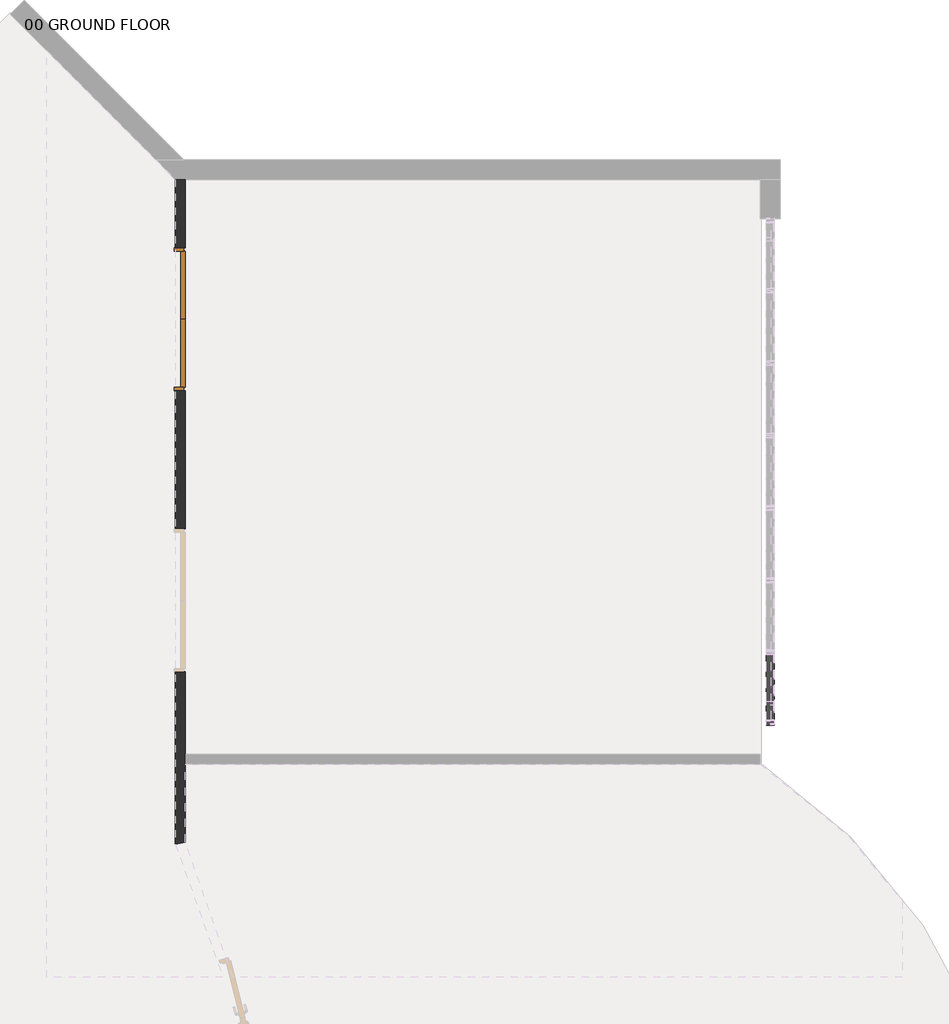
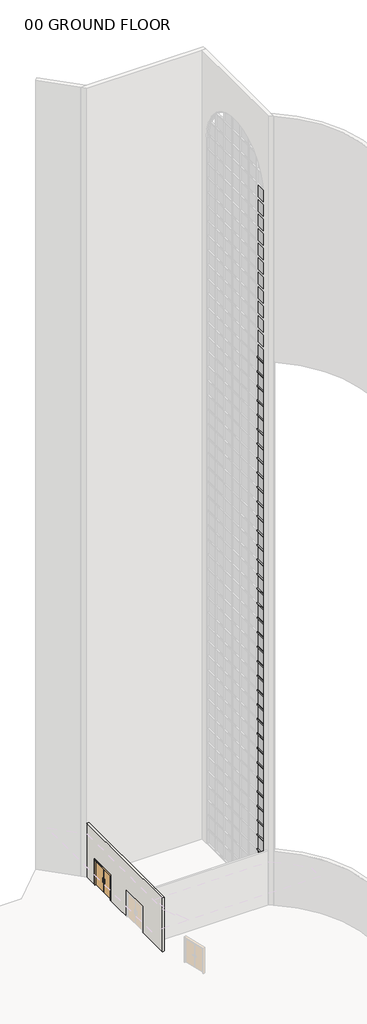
# One storey, part 24 of 33: 75 members, 49 plates, 1 door, 1 wall.
"""IFC4 building model written with IfcOpenShell, lengths in millimetres."""

from ifc_helpers import new_model, si_unit, origin, place, context, project, spatial, faceted_brep, transform, mapped, element, save
from components import door_b3a27a16, member_c70f70ef, member_75074519, system_panel_glazed_32064c29, system_panel_glazed_ab954ee1, system_panel_glazed_15c3798a

model = new_model("IFC4")

# Units and contexts
model_context = context("Model", 3, world=origin())
ifc_project = project(units=[si_unit("LENGTHUNIT", "METRE", prefix="MILLI")], contexts=[model_context])

# Site, building, storey
site = spatial("IfcSite", under=ifc_project)
building = spatial("IfcBuilding", under=site)
storey = spatial("IfcBuildingStorey", under=building, Name="00 GROUND FLOOR", Elevation=0.0)

# Door
placement = place(None, origin())
door_shape = door_b3a27a16(model_context)
element("IfcDoor", 1, ObjectType="Door-Passage-Double-Flush-Dbl_Acting : 84\" x 84\"", at=placement, inside=storey, context=model_context, shape_type="MappedRepresentation", body=[
    mapped(door_shape, transform((34956.2675515, 31499.175, 0.0), x_axis=(0.0, -1.0, 0.0), y_axis=(1.0, 0.0, 0.0), z_axis=(0.0, 0.0, 1.0))),
])

# Members
member_shape = member_c70f70ef(model_context)
element("IfcMember", 2, ObjectType="Rectangular Mullion : 2.5\" x 5\" rectangular", at=placement, inside=storey, context=model_context, shape_type="MappedRepresentation", body=[
    mapped(member_shape, transform((44184.4050515, 25212.675, 1219.2), x_axis=(0.0, 0.0, 1.0), y_axis=(-1.0, 0.0, 0.0), z_axis=(0.0, -1.0, 0.0))),
])
element("IfcMember", 3, ObjectType="Rectangular Mullion : 2.5\" x 5\" rectangular", at=placement, inside=storey, context=model_context, shape_type="MappedRepresentation", body=[
    mapped(member_shape, transform((44184.4050515, 25212.675, 2438.4), x_axis=(0.0, 0.0, 1.0), y_axis=(-1.0, 0.0, 0.0), z_axis=(0.0, -1.0, 0.0))),
])
element("IfcMember", 4, ObjectType="Rectangular Mullion : 2.5\" x 5\" rectangular", at=placement, inside=storey, context=model_context, shape_type="MappedRepresentation", body=[
    mapped(member_shape, transform((44184.4050515, 25212.675, 3657.6), x_axis=(0.0, 0.0, 1.0), y_axis=(-1.0, 0.0, 0.0), z_axis=(0.0, -1.0, 0.0))),
])
element("IfcMember", 5, ObjectType="Rectangular Mullion : 2.5\" x 5\" rectangular", at=placement, inside=storey, context=model_context, shape_type="MappedRepresentation", body=[
    mapped(member_shape, transform((44184.4050515, 25212.675, 4876.8), x_axis=(0.0, 0.0, 1.0), y_axis=(-1.0, 0.0, 0.0), z_axis=(0.0, -1.0, 0.0))),
])
element("IfcMember", 6, ObjectType="Rectangular Mullion : 2.5\" x 5\" rectangular", at=placement, inside=storey, context=model_context, shape_type="MappedRepresentation", body=[
    mapped(member_shape, transform((44184.4050515, 25212.675, 6096.0), x_axis=(0.0, 0.0, 1.0), y_axis=(-1.0, 0.0, 0.0), z_axis=(0.0, -1.0, 0.0))),
])
element("IfcMember", 7, ObjectType="Rectangular Mullion : 2.5\" x 5\" rectangular", at=placement, inside=storey, context=model_context, shape_type="MappedRepresentation", body=[
    mapped(member_shape, transform((44184.4050515, 25212.675, 7315.2), x_axis=(0.0, 0.0, 1.0), y_axis=(-1.0, 0.0, 0.0), z_axis=(0.0, -1.0, 0.0))),
])
element("IfcMember", 8, ObjectType="Rectangular Mullion : 2.5\" x 5\" rectangular", at=placement, inside=storey, context=model_context, shape_type="MappedRepresentation", body=[
    mapped(member_shape, transform((44184.4050515, 25212.675, 8534.4), x_axis=(0.0, 0.0, 1.0), y_axis=(-1.0, 0.0, 0.0), z_axis=(0.0, -1.0, 0.0))),
])
element("IfcMember", 9, ObjectType="Rectangular Mullion : 2.5\" x 5\" rectangular", at=placement, inside=storey, context=model_context, shape_type="MappedRepresentation", body=[
    mapped(member_shape, transform((44184.4050515, 25212.675, 9753.6), x_axis=(0.0, 0.0, 1.0), y_axis=(-1.0, 0.0, 0.0), z_axis=(0.0, -1.0, 0.0))),
])
element("IfcMember", 10, ObjectType="Rectangular Mullion : 2.5\" x 5\" rectangular", at=placement, inside=storey, context=model_context, shape_type="MappedRepresentation", body=[
    mapped(member_shape, transform((44184.4050515, 25212.675, 10972.8), x_axis=(0.0, 0.0, 1.0), y_axis=(-1.0, 0.0, 0.0), z_axis=(0.0, -1.0, 0.0))),
])
element("IfcMember", 11, ObjectType="Rectangular Mullion : 2.5\" x 5\" rectangular", at=placement, inside=storey, context=model_context, shape_type="MappedRepresentation", body=[
    mapped(member_shape, transform((44184.4050515, 25212.675, 12192.0), x_axis=(0.0, 0.0, 1.0), y_axis=(-1.0, 0.0, 0.0), z_axis=(0.0, -1.0, 0.0))),
])
element("IfcMember", 12, ObjectType="Rectangular Mullion : 2.5\" x 5\" rectangular", at=placement, inside=storey, context=model_context, shape_type="MappedRepresentation", body=[
    mapped(member_shape, transform((44184.4050515, 25212.675, 13411.2), x_axis=(0.0, 0.0, 1.0), y_axis=(-1.0, 0.0, 0.0), z_axis=(0.0, -1.0, 0.0))),
])
element("IfcMember", 13, ObjectType="Rectangular Mullion : 2.5\" x 5\" rectangular", at=placement, inside=storey, context=model_context, shape_type="MappedRepresentation", body=[
    mapped(member_shape, transform((44184.4050515, 25212.675, 14630.4), x_axis=(0.0, 0.0, 1.0), y_axis=(-1.0, 0.0, 0.0), z_axis=(0.0, -1.0, 0.0))),
])
element("IfcMember", 14, ObjectType="Rectangular Mullion : 2.5\" x 5\" rectangular", at=placement, inside=storey, context=model_context, shape_type="MappedRepresentation", body=[
    mapped(member_shape, transform((44184.4050515, 25212.675, 15849.6), x_axis=(0.0, 0.0, 1.0), y_axis=(-1.0, 0.0, 0.0), z_axis=(0.0, -1.0, 0.0))),
])
element("IfcMember", 15, ObjectType="Rectangular Mullion : 2.5\" x 5\" rectangular", at=placement, inside=storey, context=model_context, shape_type="MappedRepresentation", body=[
    mapped(member_shape, transform((44184.4050515, 25212.675, 17068.8), x_axis=(0.0, 0.0, 1.0), y_axis=(-1.0, 0.0, 0.0), z_axis=(0.0, -1.0, 0.0))),
])
element("IfcMember", 16, ObjectType="Rectangular Mullion : 2.5\" x 5\" rectangular", at=placement, inside=storey, context=model_context, shape_type="MappedRepresentation", body=[
    mapped(member_shape, transform((44184.4050515, 25212.675, 18288.0), x_axis=(0.0, 0.0, 1.0), y_axis=(-1.0, 0.0, 0.0), z_axis=(0.0, -1.0, 0.0))),
])
element("IfcMember", 17, ObjectType="Rectangular Mullion : 2.5\" x 5\" rectangular", at=placement, inside=storey, context=model_context, shape_type="MappedRepresentation", body=[
    mapped(member_shape, transform((44184.4050515, 25212.675, 19507.2), x_axis=(0.0, 0.0, 1.0), y_axis=(-1.0, 0.0, 0.0), z_axis=(0.0, -1.0, 0.0))),
])
element("IfcMember", 18, ObjectType="Rectangular Mullion : 2.5\" x 5\" rectangular", at=placement, inside=storey, context=model_context, shape_type="MappedRepresentation", body=[
    mapped(member_shape, transform((44184.4050515, 25212.675, 20726.4), x_axis=(0.0, 0.0, 1.0), y_axis=(-1.0, 0.0, 0.0), z_axis=(0.0, -1.0, 0.0))),
])
element("IfcMember", 19, ObjectType="Rectangular Mullion : 2.5\" x 5\" rectangular", at=placement, inside=storey, context=model_context, shape_type="MappedRepresentation", body=[
    mapped(member_shape, transform((44184.4050515, 25212.675, 21945.6), x_axis=(0.0, 0.0, 1.0), y_axis=(-1.0, 0.0, 0.0), z_axis=(0.0, -1.0, 0.0))),
])
element("IfcMember", 20, ObjectType="Rectangular Mullion : 2.5\" x 5\" rectangular", at=placement, inside=storey, context=model_context, shape_type="MappedRepresentation", body=[
    mapped(member_shape, transform((44184.4050515, 25212.675, 23164.8), x_axis=(0.0, 0.0, 1.0), y_axis=(-1.0, 0.0, 0.0), z_axis=(0.0, -1.0, 0.0))),
])
element("IfcMember", 21, ObjectType="Rectangular Mullion : 2.5\" x 5\" rectangular", at=placement, inside=storey, context=model_context, shape_type="MappedRepresentation", body=[
    mapped(member_shape, transform((44184.4050515, 25212.675, 24384.0), x_axis=(0.0, 0.0, 1.0), y_axis=(-1.0, 0.0, 0.0), z_axis=(0.0, -1.0, 0.0))),
])
element("IfcMember", 22, ObjectType="Rectangular Mullion : 2.5\" x 5\" rectangular", at=placement, inside=storey, context=model_context, shape_type="MappedRepresentation", body=[
    mapped(member_shape, transform((44184.4050515, 25212.675, 25603.2), x_axis=(0.0, 0.0, 1.0), y_axis=(-1.0, 0.0, 0.0), z_axis=(0.0, -1.0, 0.0))),
])
element("IfcMember", 23, ObjectType="Rectangular Mullion : 2.5\" x 5\" rectangular", at=placement, inside=storey, context=model_context, shape_type="MappedRepresentation", body=[
    mapped(member_shape, transform((44184.4050515, 25212.675, 26822.4), x_axis=(0.0, 0.0, 1.0), y_axis=(-1.0, 0.0, 0.0), z_axis=(0.0, -1.0, 0.0))),
])
element("IfcMember", 24, ObjectType="Rectangular Mullion : 2.5\" x 5\" rectangular", at=placement, inside=storey, context=model_context, shape_type="MappedRepresentation", body=[
    mapped(member_shape, transform((44184.4050515, 25212.675, 28041.6), x_axis=(0.0, 0.0, 1.0), y_axis=(-1.0, 0.0, 0.0), z_axis=(0.0, -1.0, 0.0))),
])
element("IfcMember", 25, ObjectType="Rectangular Mullion : 2.5\" x 5\" rectangular", at=placement, inside=storey, context=model_context, shape_type="MappedRepresentation", body=[
    mapped(member_shape, transform((44184.4050515, 25212.675, 29260.8), x_axis=(0.0, 0.0, 1.0), y_axis=(-1.0, 0.0, 0.0), z_axis=(0.0, -1.0, 0.0))),
])
element("IfcMember", 26, ObjectType="Rectangular Mullion : 2.5\" x 5\" rectangular", at=placement, inside=storey, context=model_context, shape_type="MappedRepresentation", body=[
    mapped(member_shape, transform((44184.4050515, 25212.675, 30480.0), x_axis=(0.0, 0.0, 1.0), y_axis=(-1.0, 0.0, 0.0), z_axis=(0.0, -1.0, 0.0))),
])
element("IfcMember", 27, ObjectType="Rectangular Mullion : 2.5\" x 5\" rectangular", at=placement, inside=storey, context=model_context, shape_type="MappedRepresentation", body=[
    mapped(member_shape, transform((44184.4050515, 25212.675, 31699.2), x_axis=(0.0, 0.0, 1.0), y_axis=(-1.0, 0.0, 0.0), z_axis=(0.0, -1.0, 0.0))),
])
element("IfcMember", 28, ObjectType="Rectangular Mullion : 2.5\" x 5\" rectangular", at=placement, inside=storey, context=model_context, shape_type="MappedRepresentation", body=[
    mapped(member_shape, transform((44184.4050515, 25212.675, 32918.4), x_axis=(0.0, 0.0, 1.0), y_axis=(-1.0, 0.0, 0.0), z_axis=(0.0, -1.0, 0.0))),
])
element("IfcMember", 29, ObjectType="Rectangular Mullion : 2.5\" x 5\" rectangular", at=placement, inside=storey, context=model_context, shape_type="MappedRepresentation", body=[
    mapped(member_shape, transform((44184.4050515, 25212.675, 34137.6), x_axis=(0.0, 0.0, 1.0), y_axis=(-1.0, 0.0, 0.0), z_axis=(0.0, -1.0, 0.0))),
])
element("IfcMember", 30, ObjectType="Rectangular Mullion : 2.5\" x 5\" rectangular", at=placement, inside=storey, context=model_context, shape_type="MappedRepresentation", body=[
    mapped(member_shape, transform((44184.4050515, 25212.675, 35356.8), x_axis=(0.0, 0.0, 1.0), y_axis=(-1.0, 0.0, 0.0), z_axis=(0.0, -1.0, 0.0))),
])
element("IfcMember", 31, ObjectType="Rectangular Mullion : 2.5\" x 5\" rectangular", at=placement, inside=storey, context=model_context, shape_type="MappedRepresentation", body=[
    mapped(member_shape, transform((44184.4050515, 25212.675, 36576.0), x_axis=(0.0, 0.0, 1.0), y_axis=(-1.0, 0.0, 0.0), z_axis=(0.0, -1.0, 0.0))),
])
element("IfcMember", 32, ObjectType="Rectangular Mullion : 2.5\" x 5\" rectangular", at=placement, inside=storey, context=model_context, shape_type="MappedRepresentation", body=[
    mapped(member_shape, transform((44184.4050515, 25212.675, 37795.2), x_axis=(0.0, 0.0, 1.0), y_axis=(-1.0, 0.0, 0.0), z_axis=(0.0, -1.0, 0.0))),
])
element("IfcMember", 33, ObjectType="Rectangular Mullion : 2.5\" x 5\" rectangular", at=placement, inside=storey, context=model_context, shape_type="MappedRepresentation", body=[
    mapped(member_shape, transform((44184.4050515, 25212.675, 39014.4), x_axis=(0.0, 0.0, 1.0), y_axis=(-1.0, 0.0, 0.0), z_axis=(0.0, -1.0, 0.0))),
])
element("IfcMember", 34, ObjectType="Rectangular Mullion : 2.5\" x 5\" rectangular", at=placement, inside=storey, context=model_context, shape_type="MappedRepresentation", body=[
    mapped(member_shape, transform((44184.4050515, 25212.675, 40233.6), x_axis=(0.0, 0.0, 1.0), y_axis=(-1.0, 0.0, 0.0), z_axis=(0.0, -1.0, 0.0))),
])
element("IfcMember", 35, ObjectType="Rectangular Mullion : 2.5\" x 5\" rectangular", at=placement, inside=storey, context=model_context, shape_type="MappedRepresentation", body=[
    mapped(member_shape, transform((44184.4050515, 25212.675, 41452.8), x_axis=(0.0, 0.0, 1.0), y_axis=(-1.0, 0.0, 0.0), z_axis=(0.0, -1.0, 0.0))),
])
element("IfcMember", 36, ObjectType="Rectangular Mullion : 2.5\" x 5\" rectangular", at=placement, inside=storey, context=model_context, shape_type="MappedRepresentation", body=[
    mapped(member_shape, transform((44184.4050515, 25212.675, 42672.0), x_axis=(0.0, 0.0, 1.0), y_axis=(-1.0, 0.0, 0.0), z_axis=(0.0, -1.0, 0.0))),
])
element("IfcMember", 37, ObjectType="Rectangular Mullion : 2.5\" x 5\" rectangular", at=placement, inside=storey, context=model_context, shape_type="MappedRepresentation", body=[
    mapped(member_shape, transform((44184.4050515, 25212.675, 43891.2), x_axis=(0.0, 0.0, 1.0), y_axis=(-1.0, 0.0, 0.0), z_axis=(0.0, -1.0, 0.0))),
])
element("IfcMember", 38, ObjectType="Rectangular Mullion : 2.5\" x 5\" rectangular", at=placement, inside=storey, context=model_context, shape_type="MappedRepresentation", body=[
    mapped(member_shape, transform((44184.4050515, 25212.675, 45110.4), x_axis=(0.0, 0.0, 1.0), y_axis=(-1.0, 0.0, 0.0), z_axis=(0.0, -1.0, 0.0))),
])
member_2_shape = member_75074519(model_context)
element("IfcMember", 39, ObjectType="Rectangular Mullion : 2.5\" x 5\" rectangular", at=placement, inside=storey, context=model_context, shape_type="MappedRepresentation", body=[
    mapped(member_2_shape, transform((44184.4050515, 25149.175, 0.0), x_axis=(0.0, -1.0, 0.0), y_axis=(-1.0, 0.0, 0.0), z_axis=(0.0, 0.0, -1.0))),
])
element("IfcMember", 40, ObjectType="Rectangular Mullion : 2.5\" x 5\" rectangular", at=placement, inside=storey, context=model_context, shape_type="MappedRepresentation", body=[
    mapped(member_2_shape, transform((44184.4050515, 25149.175, 1219.2), x_axis=(0.0, -1.0, 0.0), y_axis=(-1.0, 0.0, 0.0), z_axis=(0.0, 0.0, -1.0))),
])
element("IfcMember", 41, ObjectType="Rectangular Mullion : 2.5\" x 5\" rectangular", at=placement, inside=storey, context=model_context, shape_type="MappedRepresentation", body=[
    mapped(member_2_shape, transform((44184.4050515, 25149.175, 2438.4), x_axis=(0.0, -1.0, 0.0), y_axis=(-1.0, 0.0, 0.0), z_axis=(0.0, 0.0, -1.0))),
])
element("IfcMember", 42, ObjectType="Rectangular Mullion : 2.5\" x 5\" rectangular", at=placement, inside=storey, context=model_context, shape_type="MappedRepresentation", body=[
    mapped(member_2_shape, transform((44184.4050515, 25149.175, 3657.6), x_axis=(0.0, -1.0, 0.0), y_axis=(-1.0, 0.0, 0.0), z_axis=(0.0, 0.0, -1.0))),
])
element("IfcMember", 43, ObjectType="Rectangular Mullion : 2.5\" x 5\" rectangular", at=placement, inside=storey, context=model_context, shape_type="MappedRepresentation", body=[
    mapped(member_2_shape, transform((44184.4050515, 25149.175, 4876.8), x_axis=(0.0, -1.0, 0.0), y_axis=(-1.0, 0.0, 0.0), z_axis=(0.0, 0.0, -1.0))),
])
element("IfcMember", 44, ObjectType="Rectangular Mullion : 2.5\" x 5\" rectangular", at=placement, inside=storey, context=model_context, shape_type="MappedRepresentation", body=[
    mapped(member_2_shape, transform((44184.4050515, 25149.175, 6096.0), x_axis=(0.0, -1.0, 0.0), y_axis=(-1.0, 0.0, 0.0), z_axis=(0.0, 0.0, -1.0))),
])
element("IfcMember", 45, ObjectType="Rectangular Mullion : 2.5\" x 5\" rectangular", at=placement, inside=storey, context=model_context, shape_type="MappedRepresentation", body=[
    mapped(member_2_shape, transform((44184.4050515, 25149.175, 7315.2), x_axis=(0.0, -1.0, 0.0), y_axis=(-1.0, 0.0, 0.0), z_axis=(0.0, 0.0, -1.0))),
])
element("IfcMember", 46, ObjectType="Rectangular Mullion : 2.5\" x 5\" rectangular", at=placement, inside=storey, context=model_context, shape_type="MappedRepresentation", body=[
    mapped(member_2_shape, transform((44184.4050515, 25149.175, 8534.4), x_axis=(0.0, -1.0, 0.0), y_axis=(-1.0, 0.0, 0.0), z_axis=(0.0, 0.0, -1.0))),
])
element("IfcMember", 47, ObjectType="Rectangular Mullion : 2.5\" x 5\" rectangular", at=placement, inside=storey, context=model_context, shape_type="MappedRepresentation", body=[
    mapped(member_2_shape, transform((44184.4050515, 25149.175, 9753.6), x_axis=(0.0, -1.0, 0.0), y_axis=(-1.0, 0.0, 0.0), z_axis=(0.0, 0.0, -1.0))),
])
element("IfcMember", 48, ObjectType="Rectangular Mullion : 2.5\" x 5\" rectangular", at=placement, inside=storey, context=model_context, shape_type="MappedRepresentation", body=[
    mapped(member_2_shape, transform((44184.4050515, 25149.175, 10972.8), x_axis=(0.0, -1.0, 0.0), y_axis=(-1.0, 0.0, 0.0), z_axis=(0.0, 0.0, -1.0))),
])
element("IfcMember", 49, ObjectType="Rectangular Mullion : 2.5\" x 5\" rectangular", at=placement, inside=storey, context=model_context, shape_type="MappedRepresentation", body=[
    mapped(member_2_shape, transform((44184.4050515, 25149.175, 12192.0), x_axis=(0.0, -1.0, 0.0), y_axis=(-1.0, 0.0, 0.0), z_axis=(0.0, 0.0, -1.0))),
])
element("IfcMember", 50, ObjectType="Rectangular Mullion : 2.5\" x 5\" rectangular", at=placement, inside=storey, context=model_context, shape_type="MappedRepresentation", body=[
    mapped(member_2_shape, transform((44184.4050515, 25149.175, 13411.2), x_axis=(0.0, -1.0, 0.0), y_axis=(-1.0, 0.0, 0.0), z_axis=(0.0, 0.0, -1.0))),
])
element("IfcMember", 51, ObjectType="Rectangular Mullion : 2.5\" x 5\" rectangular", at=placement, inside=storey, context=model_context, shape_type="MappedRepresentation", body=[
    mapped(member_2_shape, transform((44184.4050515, 25149.175, 14630.4), x_axis=(0.0, -1.0, 0.0), y_axis=(-1.0, 0.0, 0.0), z_axis=(0.0, 0.0, -1.0))),
])
element("IfcMember", 52, ObjectType="Rectangular Mullion : 2.5\" x 5\" rectangular", at=placement, inside=storey, context=model_context, shape_type="MappedRepresentation", body=[
    mapped(member_2_shape, transform((44184.4050515, 25149.175, 15849.6), x_axis=(0.0, -1.0, 0.0), y_axis=(-1.0, 0.0, 0.0), z_axis=(0.0, 0.0, -1.0))),
])
element("IfcMember", 53, ObjectType="Rectangular Mullion : 2.5\" x 5\" rectangular", at=placement, inside=storey, context=model_context, shape_type="MappedRepresentation", body=[
    mapped(member_2_shape, transform((44184.4050515, 25149.175, 17068.8), x_axis=(0.0, -1.0, 0.0), y_axis=(-1.0, 0.0, 0.0), z_axis=(0.0, 0.0, -1.0))),
])
element("IfcMember", 54, ObjectType="Rectangular Mullion : 2.5\" x 5\" rectangular", at=placement, inside=storey, context=model_context, shape_type="MappedRepresentation", body=[
    mapped(member_2_shape, transform((44184.4050515, 25149.175, 18288.0), x_axis=(0.0, -1.0, 0.0), y_axis=(-1.0, 0.0, 0.0), z_axis=(0.0, 0.0, -1.0))),
])
element("IfcMember", 55, ObjectType="Rectangular Mullion : 2.5\" x 5\" rectangular", at=placement, inside=storey, context=model_context, shape_type="MappedRepresentation", body=[
    mapped(member_2_shape, transform((44184.4050515, 25149.175, 19507.2), x_axis=(0.0, -1.0, 0.0), y_axis=(-1.0, 0.0, 0.0), z_axis=(0.0, 0.0, -1.0))),
])
element("IfcMember", 56, ObjectType="Rectangular Mullion : 2.5\" x 5\" rectangular", at=placement, inside=storey, context=model_context, shape_type="MappedRepresentation", body=[
    mapped(member_2_shape, transform((44184.4050515, 25149.175, 20726.4), x_axis=(0.0, -1.0, 0.0), y_axis=(-1.0, 0.0, 0.0), z_axis=(0.0, 0.0, -1.0))),
])
element("IfcMember", 57, ObjectType="Rectangular Mullion : 2.5\" x 5\" rectangular", at=placement, inside=storey, context=model_context, shape_type="MappedRepresentation", body=[
    mapped(member_2_shape, transform((44184.4050515, 25149.175, 21945.6), x_axis=(0.0, -1.0, 0.0), y_axis=(-1.0, 0.0, 0.0), z_axis=(0.0, 0.0, -1.0))),
])
element("IfcMember", 58, ObjectType="Rectangular Mullion : 2.5\" x 5\" rectangular", at=placement, inside=storey, context=model_context, shape_type="MappedRepresentation", body=[
    mapped(member_2_shape, transform((44184.4050515, 25149.175, 23164.8), x_axis=(0.0, -1.0, 0.0), y_axis=(-1.0, 0.0, 0.0), z_axis=(0.0, 0.0, -1.0))),
])
element("IfcMember", 59, ObjectType="Rectangular Mullion : 2.5\" x 5\" rectangular", at=placement, inside=storey, context=model_context, shape_type="MappedRepresentation", body=[
    mapped(member_2_shape, transform((44184.4050515, 25149.175, 24384.0), x_axis=(0.0, -1.0, 0.0), y_axis=(-1.0, 0.0, 0.0), z_axis=(0.0, 0.0, -1.0))),
])
element("IfcMember", 60, ObjectType="Rectangular Mullion : 2.5\" x 5\" rectangular", at=placement, inside=storey, context=model_context, shape_type="MappedRepresentation", body=[
    mapped(member_2_shape, transform((44184.4050515, 25149.175, 25603.2), x_axis=(0.0, -1.0, 0.0), y_axis=(-1.0, 0.0, 0.0), z_axis=(0.0, 0.0, -1.0))),
])
element("IfcMember", 61, ObjectType="Rectangular Mullion : 2.5\" x 5\" rectangular", at=placement, inside=storey, context=model_context, shape_type="MappedRepresentation", body=[
    mapped(member_2_shape, transform((44184.4050515, 25149.175, 26822.4), x_axis=(0.0, -1.0, 0.0), y_axis=(-1.0, 0.0, 0.0), z_axis=(0.0, 0.0, -1.0))),
])
element("IfcMember", 62, ObjectType="Rectangular Mullion : 2.5\" x 5\" rectangular", at=placement, inside=storey, context=model_context, shape_type="MappedRepresentation", body=[
    mapped(member_2_shape, transform((44184.4050515, 25149.175, 28041.6), x_axis=(0.0, -1.0, 0.0), y_axis=(-1.0, 0.0, 0.0), z_axis=(0.0, 0.0, -1.0))),
])
element("IfcMember", 63, ObjectType="Rectangular Mullion : 2.5\" x 5\" rectangular", at=placement, inside=storey, context=model_context, shape_type="MappedRepresentation", body=[
    mapped(member_2_shape, transform((44184.4050515, 25149.175, 29260.8), x_axis=(0.0, -1.0, 0.0), y_axis=(-1.0, 0.0, 0.0), z_axis=(0.0, 0.0, -1.0))),
])
element("IfcMember", 64, ObjectType="Rectangular Mullion : 2.5\" x 5\" rectangular", at=placement, inside=storey, context=model_context, shape_type="MappedRepresentation", body=[
    mapped(member_2_shape, transform((44184.4050515, 25149.175, 30480.0), x_axis=(0.0, -1.0, 0.0), y_axis=(-1.0, 0.0, 0.0), z_axis=(0.0, 0.0, -1.0))),
])
element("IfcMember", 65, ObjectType="Rectangular Mullion : 2.5\" x 5\" rectangular", at=placement, inside=storey, context=model_context, shape_type="MappedRepresentation", body=[
    mapped(member_2_shape, transform((44184.4050515, 25149.175, 31699.2), x_axis=(0.0, -1.0, 0.0), y_axis=(-1.0, 0.0, 0.0), z_axis=(0.0, 0.0, -1.0))),
])
element("IfcMember", 66, ObjectType="Rectangular Mullion : 2.5\" x 5\" rectangular", at=placement, inside=storey, context=model_context, shape_type="MappedRepresentation", body=[
    mapped(member_2_shape, transform((44184.4050515, 25149.175, 32918.4), x_axis=(0.0, -1.0, 0.0), y_axis=(-1.0, 0.0, 0.0), z_axis=(0.0, 0.0, -1.0))),
])
element("IfcMember", 67, ObjectType="Rectangular Mullion : 2.5\" x 5\" rectangular", at=placement, inside=storey, context=model_context, shape_type="MappedRepresentation", body=[
    mapped(member_2_shape, transform((44184.4050515, 25149.175, 34137.6), x_axis=(0.0, -1.0, 0.0), y_axis=(-1.0, 0.0, 0.0), z_axis=(0.0, 0.0, -1.0))),
])
element("IfcMember", 68, ObjectType="Rectangular Mullion : 2.5\" x 5\" rectangular", at=placement, inside=storey, context=model_context, shape_type="MappedRepresentation", body=[
    mapped(member_2_shape, transform((44184.4050515, 25149.175, 35356.8), x_axis=(0.0, -1.0, 0.0), y_axis=(-1.0, 0.0, 0.0), z_axis=(0.0, 0.0, -1.0))),
])
element("IfcMember", 69, ObjectType="Rectangular Mullion : 2.5\" x 5\" rectangular", at=placement, inside=storey, context=model_context, shape_type="MappedRepresentation", body=[
    mapped(member_2_shape, transform((44184.4050515, 25149.175, 36576.0), x_axis=(0.0, -1.0, 0.0), y_axis=(-1.0, 0.0, 0.0), z_axis=(0.0, 0.0, -1.0))),
])
element("IfcMember", 70, ObjectType="Rectangular Mullion : 2.5\" x 5\" rectangular", at=placement, inside=storey, context=model_context, shape_type="MappedRepresentation", body=[
    mapped(member_2_shape, transform((44184.4050515, 25149.175, 37795.2), x_axis=(0.0, -1.0, 0.0), y_axis=(-1.0, 0.0, 0.0), z_axis=(0.0, 0.0, -1.0))),
])
element("IfcMember", 71, ObjectType="Rectangular Mullion : 2.5\" x 5\" rectangular", at=placement, inside=storey, context=model_context, shape_type="MappedRepresentation", body=[
    mapped(member_2_shape, transform((44184.4050515, 25149.175, 39014.4), x_axis=(0.0, -1.0, 0.0), y_axis=(-1.0, 0.0, 0.0), z_axis=(0.0, 0.0, -1.0))),
])
element("IfcMember", 72, ObjectType="Rectangular Mullion : 2.5\" x 5\" rectangular", at=placement, inside=storey, context=model_context, shape_type="MappedRepresentation", body=[
    mapped(member_2_shape, transform((44184.4050515, 25149.175, 40233.6), x_axis=(0.0, -1.0, 0.0), y_axis=(-1.0, 0.0, 0.0), z_axis=(0.0, 0.0, -1.0))),
])
element("IfcMember", 73, ObjectType="Rectangular Mullion : 2.5\" x 5\" rectangular", at=placement, inside=storey, context=model_context, shape_type="MappedRepresentation", body=[
    mapped(member_2_shape, transform((44184.4050515, 25149.175, 41452.8), x_axis=(0.0, -1.0, 0.0), y_axis=(-1.0, 0.0, 0.0), z_axis=(0.0, 0.0, -1.0))),
])
element("IfcMember", 74, ObjectType="Rectangular Mullion : 2.5\" x 5\" rectangular", at=placement, inside=storey, context=model_context, shape_type="MappedRepresentation", body=[
    mapped(member_2_shape, transform((44184.4050515, 25149.175, 42672.0), x_axis=(0.0, -1.0, 0.0), y_axis=(-1.0, 0.0, 0.0), z_axis=(0.0, 0.0, -1.0))),
])
element("IfcMember", 75, ObjectType="Rectangular Mullion : 2.5\" x 5\" rectangular", at=placement, inside=storey, context=model_context, shape_type="MappedRepresentation", body=[
    mapped(member_2_shape, transform((44184.4050515, 25149.175, 43891.2), x_axis=(0.0, -1.0, 0.0), y_axis=(-1.0, 0.0, 0.0), z_axis=(0.0, 0.0, -1.0))),
])
element("IfcMember", 76, ObjectType="Rectangular Mullion : 2.5\" x 5\" rectangular", at=placement, inside=storey, context=model_context, shape_type="MappedRepresentation", body=[
    mapped(member_2_shape, transform((44184.4050515, 25149.175, 45110.4), x_axis=(0.0, -1.0, 0.0), y_axis=(-1.0, 0.0, 0.0), z_axis=(0.0, 0.0, -1.0))),
])

# Plates
system_panel_glazed_shape = system_panel_glazed_32064c29(model_context)
element("IfcPlate", 77, ObjectType="System Panel : Glazed", at=placement, inside=storey, context=model_context, shape_type="MappedRepresentation", body=[
    mapped(system_panel_glazed_shape, transform((44184.4050515, 25731.107143, 63.5), x_axis=(0.0, -1.0, 0.0), y_axis=(1.0, 0.0, 0.0), z_axis=(0.0, 0.0, 1.0))),
])
system_panel_glazed_2_shape = system_panel_glazed_ab954ee1(model_context)
element("IfcPlate", 78, ObjectType="System Panel : Glazed", at=placement, inside=storey, context=model_context, shape_type="MappedRepresentation", body=[
    mapped(system_panel_glazed_2_shape, transform((44184.4050515, 25731.107143, 1250.95), x_axis=(0.0, -1.0, 0.0), y_axis=(1.0, 0.0, 0.0), z_axis=(0.0, 0.0, 1.0))),
])
element("IfcPlate", 79, ObjectType="System Panel : Glazed", at=placement, inside=storey, context=model_context, shape_type="MappedRepresentation", body=[
    mapped(system_panel_glazed_2_shape, transform((44184.4050515, 25731.107143, 2470.15), x_axis=(0.0, -1.0, 0.0), y_axis=(1.0, 0.0, 0.0), z_axis=(0.0, 0.0, 1.0))),
])
element("IfcPlate", 80, ObjectType="System Panel : Glazed", at=placement, inside=storey, context=model_context, shape_type="MappedRepresentation", body=[
    mapped(system_panel_glazed_2_shape, transform((44184.4050515, 25731.107143, 3689.35), x_axis=(0.0, -1.0, 0.0), y_axis=(1.0, 0.0, 0.0), z_axis=(0.0, 0.0, 1.0))),
])
element("IfcPlate", 81, ObjectType="System Panel : Glazed", at=placement, inside=storey, context=model_context, shape_type="MappedRepresentation", body=[
    mapped(system_panel_glazed_2_shape, transform((44184.4050515, 25731.107143, 4908.55), x_axis=(0.0, -1.0, 0.0), y_axis=(1.0, 0.0, 0.0), z_axis=(0.0, 0.0, 1.0))),
])
element("IfcPlate", 82, ObjectType="System Panel : Glazed", at=placement, inside=storey, context=model_context, shape_type="MappedRepresentation", body=[
    mapped(system_panel_glazed_2_shape, transform((44184.4050515, 25731.107143, 6127.75), x_axis=(0.0, -1.0, 0.0), y_axis=(1.0, 0.0, 0.0), z_axis=(0.0, 0.0, 1.0))),
])
element("IfcPlate", 83, ObjectType="System Panel : Glazed", at=placement, inside=storey, context=model_context, shape_type="MappedRepresentation", body=[
    mapped(system_panel_glazed_2_shape, transform((44184.4050515, 25731.107143, 7346.95), x_axis=(0.0, -1.0, 0.0), y_axis=(1.0, 0.0, 0.0), z_axis=(0.0, 0.0, 1.0))),
])
element("IfcPlate", 84, ObjectType="System Panel : Glazed", at=placement, inside=storey, context=model_context, shape_type="MappedRepresentation", body=[
    mapped(system_panel_glazed_2_shape, transform((44184.4050515, 25731.107143, 8566.15), x_axis=(0.0, -1.0, 0.0), y_axis=(1.0, 0.0, 0.0), z_axis=(0.0, 0.0, 1.0))),
])
element("IfcPlate", 85, ObjectType="System Panel : Glazed", at=placement, inside=storey, context=model_context, shape_type="MappedRepresentation", body=[
    mapped(system_panel_glazed_2_shape, transform((44184.4050515, 25731.107143, 9785.35), x_axis=(0.0, -1.0, 0.0), y_axis=(1.0, 0.0, 0.0), z_axis=(0.0, 0.0, 1.0))),
])
element("IfcPlate", 86, ObjectType="System Panel : Glazed", at=placement, inside=storey, context=model_context, shape_type="MappedRepresentation", body=[
    mapped(system_panel_glazed_2_shape, transform((44184.4050515, 25731.107143, 11004.55), x_axis=(0.0, -1.0, 0.0), y_axis=(1.0, 0.0, 0.0), z_axis=(0.0, 0.0, 1.0))),
])
element("IfcPlate", 87, ObjectType="System Panel : Glazed", at=placement, inside=storey, context=model_context, shape_type="MappedRepresentation", body=[
    mapped(system_panel_glazed_2_shape, transform((44184.4050515, 25731.107143, 12223.75), x_axis=(0.0, -1.0, 0.0), y_axis=(1.0, 0.0, 0.0), z_axis=(0.0, 0.0, 1.0))),
])
element("IfcPlate", 88, ObjectType="System Panel : Glazed", at=placement, inside=storey, context=model_context, shape_type="MappedRepresentation", body=[
    mapped(system_panel_glazed_2_shape, transform((44184.4050515, 25731.107143, 13442.95), x_axis=(0.0, -1.0, 0.0), y_axis=(1.0, 0.0, 0.0), z_axis=(0.0, 0.0, 1.0))),
])
element("IfcPlate", 89, ObjectType="System Panel : Glazed", at=placement, inside=storey, context=model_context, shape_type="MappedRepresentation", body=[
    mapped(system_panel_glazed_2_shape, transform((44184.4050515, 25731.107143, 14662.15), x_axis=(0.0, -1.0, 0.0), y_axis=(1.0, 0.0, 0.0), z_axis=(0.0, 0.0, 1.0))),
])
element("IfcPlate", 90, ObjectType="System Panel : Glazed", at=placement, inside=storey, context=model_context, shape_type="MappedRepresentation", body=[
    mapped(system_panel_glazed_2_shape, transform((44184.4050515, 25731.107143, 15881.35), x_axis=(0.0, -1.0, 0.0), y_axis=(1.0, 0.0, 0.0), z_axis=(0.0, 0.0, 1.0))),
])
element("IfcPlate", 91, ObjectType="System Panel : Glazed", at=placement, inside=storey, context=model_context, shape_type="MappedRepresentation", body=[
    mapped(system_panel_glazed_2_shape, transform((44184.4050515, 25731.107143, 17100.55), x_axis=(0.0, -1.0, 0.0), y_axis=(1.0, 0.0, 0.0), z_axis=(0.0, 0.0, 1.0))),
])
element("IfcPlate", 92, ObjectType="System Panel : Glazed", at=placement, inside=storey, context=model_context, shape_type="MappedRepresentation", body=[
    mapped(system_panel_glazed_2_shape, transform((44184.4050515, 25731.107143, 18319.75), x_axis=(0.0, -1.0, 0.0), y_axis=(1.0, 0.0, 0.0), z_axis=(0.0, 0.0, 1.0))),
])
element("IfcPlate", 93, ObjectType="System Panel : Glazed", at=placement, inside=storey, context=model_context, shape_type="MappedRepresentation", body=[
    mapped(system_panel_glazed_2_shape, transform((44184.4050515, 25731.107143, 19538.95), x_axis=(0.0, -1.0, 0.0), y_axis=(1.0, 0.0, 0.0), z_axis=(0.0, 0.0, 1.0))),
])
element("IfcPlate", 94, ObjectType="System Panel : Glazed", at=placement, inside=storey, context=model_context, shape_type="MappedRepresentation", body=[
    mapped(system_panel_glazed_2_shape, transform((44184.4050515, 25731.107143, 20758.15), x_axis=(0.0, -1.0, 0.0), y_axis=(1.0, 0.0, 0.0), z_axis=(0.0, 0.0, 1.0))),
])
element("IfcPlate", 95, ObjectType="System Panel : Glazed", at=placement, inside=storey, context=model_context, shape_type="MappedRepresentation", body=[
    mapped(system_panel_glazed_2_shape, transform((44184.4050515, 25731.107143, 21977.35), x_axis=(0.0, -1.0, 0.0), y_axis=(1.0, 0.0, 0.0), z_axis=(0.0, 0.0, 1.0))),
])
element("IfcPlate", 96, ObjectType="System Panel : Glazed", at=placement, inside=storey, context=model_context, shape_type="MappedRepresentation", body=[
    mapped(system_panel_glazed_2_shape, transform((44184.4050515, 25731.107143, 23196.55), x_axis=(0.0, -1.0, 0.0), y_axis=(1.0, 0.0, 0.0), z_axis=(0.0, 0.0, 1.0))),
])
element("IfcPlate", 97, ObjectType="System Panel : Glazed", at=placement, inside=storey, context=model_context, shape_type="MappedRepresentation", body=[
    mapped(system_panel_glazed_2_shape, transform((44184.4050515, 25731.107143, 24415.75), x_axis=(0.0, -1.0, 0.0), y_axis=(1.0, 0.0, 0.0), z_axis=(0.0, 0.0, 1.0))),
])
element("IfcPlate", 98, ObjectType="System Panel : Glazed", at=placement, inside=storey, context=model_context, shape_type="MappedRepresentation", body=[
    mapped(system_panel_glazed_2_shape, transform((44184.4050515, 25731.107143, 25634.95), x_axis=(0.0, -1.0, 0.0), y_axis=(1.0, 0.0, 0.0), z_axis=(0.0, 0.0, 1.0))),
])
element("IfcPlate", 99, ObjectType="System Panel : Glazed", at=placement, inside=storey, context=model_context, shape_type="MappedRepresentation", body=[
    mapped(system_panel_glazed_2_shape, transform((44184.4050515, 25731.107143, 26854.15), x_axis=(0.0, -1.0, 0.0), y_axis=(1.0, 0.0, 0.0), z_axis=(0.0, 0.0, 1.0))),
])
element("IfcPlate", 100, ObjectType="System Panel : Glazed", at=placement, inside=storey, context=model_context, shape_type="MappedRepresentation", body=[
    mapped(system_panel_glazed_2_shape, transform((44184.4050515, 25731.107143, 28073.35), x_axis=(0.0, -1.0, 0.0), y_axis=(1.0, 0.0, 0.0), z_axis=(0.0, 0.0, 1.0))),
])
element("IfcPlate", 101, ObjectType="System Panel : Glazed", at=placement, inside=storey, context=model_context, shape_type="MappedRepresentation", body=[
    mapped(system_panel_glazed_2_shape, transform((44184.4050515, 25731.107143, 29292.55), x_axis=(0.0, -1.0, 0.0), y_axis=(1.0, 0.0, 0.0), z_axis=(0.0, 0.0, 1.0))),
])
element("IfcPlate", 102, ObjectType="System Panel : Glazed", at=placement, inside=storey, context=model_context, shape_type="MappedRepresentation", body=[
    mapped(system_panel_glazed_2_shape, transform((44184.4050515, 25731.107143, 30511.75), x_axis=(0.0, -1.0, 0.0), y_axis=(1.0, 0.0, 0.0), z_axis=(0.0, 0.0, 1.0))),
])
element("IfcPlate", 103, ObjectType="System Panel : Glazed", at=placement, inside=storey, context=model_context, shape_type="MappedRepresentation", body=[
    mapped(system_panel_glazed_2_shape, transform((44184.4050515, 25731.107143, 31730.95), x_axis=(0.0, -1.0, 0.0), y_axis=(1.0, 0.0, 0.0), z_axis=(0.0, 0.0, 1.0))),
])
element("IfcPlate", 104, ObjectType="System Panel : Glazed", at=placement, inside=storey, context=model_context, shape_type="MappedRepresentation", body=[
    mapped(system_panel_glazed_2_shape, transform((44184.4050515, 25731.107143, 32950.15), x_axis=(0.0, -1.0, 0.0), y_axis=(1.0, 0.0, 0.0), z_axis=(0.0, 0.0, 1.0))),
])
element("IfcPlate", 105, ObjectType="System Panel : Glazed", at=placement, inside=storey, context=model_context, shape_type="MappedRepresentation", body=[
    mapped(system_panel_glazed_2_shape, transform((44184.4050515, 25731.107143, 34169.35), x_axis=(0.0, -1.0, 0.0), y_axis=(1.0, 0.0, 0.0), z_axis=(0.0, 0.0, 1.0))),
])
element("IfcPlate", 106, ObjectType="System Panel : Glazed", at=placement, inside=storey, context=model_context, shape_type="MappedRepresentation", body=[
    mapped(system_panel_glazed_2_shape, transform((44184.4050515, 25731.107143, 35388.55), x_axis=(0.0, -1.0, 0.0), y_axis=(1.0, 0.0, 0.0), z_axis=(0.0, 0.0, 1.0))),
])
element("IfcPlate", 107, ObjectType="System Panel : Glazed", at=placement, inside=storey, context=model_context, shape_type="MappedRepresentation", body=[
    mapped(system_panel_glazed_2_shape, transform((44184.4050515, 25731.107143, 36607.75), x_axis=(0.0, -1.0, 0.0), y_axis=(1.0, 0.0, 0.0), z_axis=(0.0, 0.0, 1.0))),
])
element("IfcPlate", 108, ObjectType="System Panel : Glazed", at=placement, inside=storey, context=model_context, shape_type="MappedRepresentation", body=[
    mapped(system_panel_glazed_2_shape, transform((44184.4050515, 25731.107143, 37826.95), x_axis=(0.0, -1.0, 0.0), y_axis=(1.0, 0.0, 0.0), z_axis=(0.0, 0.0, 1.0))),
])
element("IfcPlate", 109, ObjectType="System Panel : Glazed", at=placement, inside=storey, context=model_context, shape_type="MappedRepresentation", body=[
    mapped(system_panel_glazed_2_shape, transform((44184.4050515, 25731.107143, 39046.15), x_axis=(0.0, -1.0, 0.0), y_axis=(1.0, 0.0, 0.0), z_axis=(0.0, 0.0, 1.0))),
])
element("IfcPlate", 110, ObjectType="System Panel : Glazed", at=placement, inside=storey, context=model_context, shape_type="MappedRepresentation", body=[
    mapped(system_panel_glazed_2_shape, transform((44184.4050515, 25731.107143, 40265.35), x_axis=(0.0, -1.0, 0.0), y_axis=(1.0, 0.0, 0.0), z_axis=(0.0, 0.0, 1.0))),
])
element("IfcPlate", 111, ObjectType="System Panel : Glazed", at=placement, inside=storey, context=model_context, shape_type="MappedRepresentation", body=[
    mapped(system_panel_glazed_2_shape, transform((44184.4050515, 25731.107143, 41484.55), x_axis=(0.0, -1.0, 0.0), y_axis=(1.0, 0.0, 0.0), z_axis=(0.0, 0.0, 1.0))),
])
element("IfcPlate", 112, ObjectType="System Panel : Glazed", at=placement, inside=storey, context=model_context, shape_type="MappedRepresentation", body=[
    mapped(system_panel_glazed_2_shape, transform((44184.4050515, 25731.107143, 42703.75), x_axis=(0.0, -1.0, 0.0), y_axis=(1.0, 0.0, 0.0), z_axis=(0.0, 0.0, 1.0))),
])
element("IfcPlate", 113, ObjectType="System Panel : Glazed", at=placement, inside=storey, context=model_context, shape_type="MappedRepresentation", body=[
    mapped(system_panel_glazed_2_shape, transform((44184.4050515, 25731.107143, 43922.95), x_axis=(0.0, -1.0, 0.0), y_axis=(1.0, 0.0, 0.0), z_axis=(0.0, 0.0, 1.0))),
])
element("IfcPlate", 114, ObjectType="System Panel : Glazed", at=placement, inside=storey, context=model_context, shape_type="MappedRepresentation", body=[
    mapped(system_panel_glazed_2_shape, transform((44184.4050515, 25731.107143, 45142.15), x_axis=(0.0, -1.0, 0.0), y_axis=(1.0, 0.0, 0.0), z_axis=(0.0, 0.0, 1.0))),
])
element("IfcPlate", 115, ObjectType="System Panel : Glazed", at=placement, inside=storey, context=model_context, shape_type="MappedRepresentation", body=[
    mapped(system_panel_glazed_2_shape, transform((44184.4050515, 25731.107143, 46361.35), x_axis=(0.0, -1.0, 0.0), y_axis=(1.0, 0.0, 0.0), z_axis=(0.0, 0.0, 1.0))),
])
element("IfcPlate", 116, ObjectType="System Panel : Glazed", at=placement, inside=storey, context=model_context, shape_type="MappedRepresentation", body=[
    mapped(system_panel_glazed_2_shape, transform((44184.4050515, 25731.107143, 47580.55), x_axis=(0.0, -1.0, 0.0), y_axis=(1.0, 0.0, 0.0), z_axis=(0.0, 0.0, 1.0))),
])
element("IfcPlate", 117, ObjectType="System Panel : Glazed", at=placement, inside=storey, context=model_context, shape_type="MappedRepresentation", body=[
    mapped(system_panel_glazed_2_shape, transform((44184.4050515, 25731.107143, 48799.75), x_axis=(0.0, -1.0, 0.0), y_axis=(1.0, 0.0, 0.0), z_axis=(0.0, 0.0, 1.0))),
])
element("IfcPlate", 118, ObjectType="System Panel : Glazed", at=placement, inside=storey, context=model_context, shape_type="MappedRepresentation", body=[
    mapped(system_panel_glazed_2_shape, transform((44184.4050515, 25731.107143, 50018.95), x_axis=(0.0, -1.0, 0.0), y_axis=(1.0, 0.0, 0.0), z_axis=(0.0, 0.0, 1.0))),
])
element("IfcPlate", 119, ObjectType="System Panel : Glazed", at=placement, inside=storey, context=model_context, shape_type="MappedRepresentation", body=[
    mapped(system_panel_glazed_2_shape, transform((44184.4050515, 25731.107143, 51238.15), x_axis=(0.0, -1.0, 0.0), y_axis=(1.0, 0.0, 0.0), z_axis=(0.0, 0.0, 1.0))),
])
element("IfcPlate", 120, ObjectType="System Panel : Glazed", at=placement, inside=storey, context=model_context, shape_type="MappedRepresentation", body=[
    mapped(system_panel_glazed_2_shape, transform((44184.4050515, 25731.107143, 52457.35), x_axis=(0.0, -1.0, 0.0), y_axis=(1.0, 0.0, 0.0), z_axis=(0.0, 0.0, 1.0))),
])
element("IfcPlate", 121, ObjectType="System Panel : Glazed", at=placement, inside=storey, context=model_context, shape_type="MappedRepresentation", body=[
    mapped(system_panel_glazed_2_shape, transform((44184.4050515, 25731.107143, 53676.55), x_axis=(0.0, -1.0, 0.0), y_axis=(1.0, 0.0, 0.0), z_axis=(0.0, 0.0, 1.0))),
])
element("IfcPlate", 122, ObjectType="System Panel : Glazed", at=placement, inside=storey, context=model_context, shape_type="MappedRepresentation", body=[
    mapped(system_panel_glazed_2_shape, transform((44184.4050515, 25731.107143, 54895.75), x_axis=(0.0, -1.0, 0.0), y_axis=(1.0, 0.0, 0.0), z_axis=(0.0, 0.0, 1.0))),
])
element("IfcPlate", 123, ObjectType="System Panel : Glazed", at=placement, inside=storey, context=model_context, shape_type="MappedRepresentation", body=[
    mapped(system_panel_glazed_2_shape, transform((44184.4050515, 25731.107143, 56114.95), x_axis=(0.0, -1.0, 0.0), y_axis=(1.0, 0.0, 0.0), z_axis=(0.0, 0.0, 1.0))),
])
element("IfcPlate", 124, ObjectType="System Panel : Glazed", at=placement, inside=storey, context=model_context, shape_type="MappedRepresentation", body=[
    mapped(system_panel_glazed_2_shape, transform((44184.4050515, 25731.107143, 57334.15), x_axis=(0.0, -1.0, 0.0), y_axis=(1.0, 0.0, 0.0), z_axis=(0.0, 0.0, 1.0))),
])
system_panel_glazed_3_shape = system_panel_glazed_15c3798a(model_context)
element("IfcPlate", 125, ObjectType="System Panel : Glazed", at=placement, inside=storey, context=model_context, shape_type="MappedRepresentation", body=[
    mapped(system_panel_glazed_3_shape, transform((44184.4050515, 25731.107143, 58553.35), x_axis=(0.0, -1.0, 0.0), y_axis=(1.0, 0.0, 0.0), z_axis=(0.0, 0.0, 1.0))),
])

# Wall
element("IfcWall", 126, ObjectType="SYR_INT_TWO_HOUR", at=placement, inside=storey, context=model_context, shape_type="Brep", body=[
    faceted_brep([(34884.8300515, 23286.7810764, 4572.0), (34884.8300515, 33683.575, 4572.0), (34884.8300515, 33683.575, 0.0), (34884.8300515, 32616.775, 0.0), (34884.8300515, 32616.775, 2235.2), (34884.8300515, 30381.575, 2235.2), (34884.8300515, 30381.575, 0.0), (34884.8300515, 28219.4, 0.0), (34884.8300515, 28219.4, 2235.2), (34884.8300515, 25984.2, 2235.2), (34884.8300515, 25984.2, 0.0), (34884.8300515, 23286.7810764, 0.0), (35040.4050515, 33683.575, 4572.0), (35040.4050515, 24695.15, 4572.0), (35040.4050515, 24539.575, 4572.0), (35040.4050515, 23320.9573614, 4572.0), (35040.4050515, 23320.9573614, 0.0), (35040.4050515, 24539.575, 0.0), (35040.4050515, 24695.15, 0.0), (35040.4050515, 25984.2, 0.0), (35040.4050515, 25984.2, 2235.2), (35040.4050515, 28219.4, 2235.2), (35040.4050515, 28219.4, 0.0), (35040.4050515, 30381.575, 0.0), (35040.4050515, 30381.575, 2235.2), (35040.4050515, 32616.775, 2235.2), (35040.4050515, 32616.775, 0.0), (35040.4050515, 33683.575, 0.0)], [[[0, 1, 2, 3, 4, 5, 6, 7, 8, 9, 10, 11]], [[12, 13, 14, 15, 16, 17, 18, 19, 20, 21, 22, 23, 24, 25, 26, 27]], [[16, 11, 10, 19, 18, 17]], [[3, 2, 27, 26]], [[6, 23, 22, 7]], [[1, 0, 15, 14, 13, 12]], [[0, 11, 16, 15]], [[5, 24, 23, 6]], [[24, 5, 4, 25]], [[25, 4, 3, 26]], [[9, 20, 19, 10]], [[20, 9, 8, 21]], [[21, 8, 7, 22]], [[2, 1, 12, 27]]]),
])

save(model, "model.ifc")
